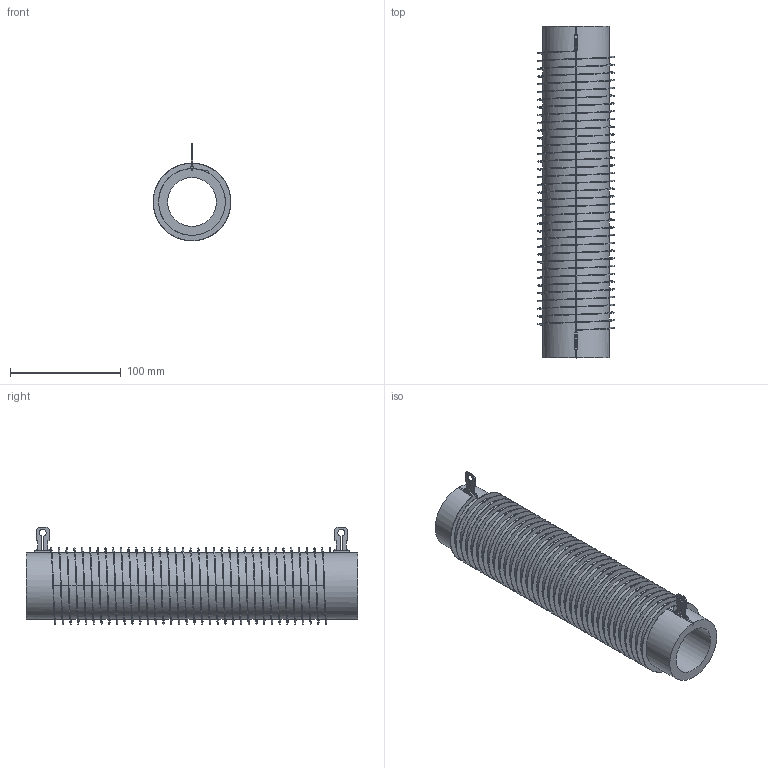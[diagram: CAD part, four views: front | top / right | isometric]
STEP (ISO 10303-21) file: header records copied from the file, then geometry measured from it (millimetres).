
FILE_DESCRIPTION(/* description */ (''),/* implementation_level */ '2;1');
FILE_NAME(/* name */ 'C:\_Vault\Dati\CATALOGO\RCPO-RSPO\RCPO-RSPO 500-1500\CPO0750.stp',/* time_stamp */ '2014-01-22T17:00:26+01:00',/* author */ ('stefano'),/* organization */ (''),/* preprocessor_version */ 'ST-DEVELOPER v15.2',/* originating_system */ 'Autodesk Inventor 2014',/* authorisation */ '');
FILE_SCHEMA (('AUTOMOTIVE_DESIGN { 1 0 10303 214 3 1 1 }'));
Length unit declared in the file: millimetre
Products named in the file (1): CPO0750
Bounding box: 70.01 x 300 x 88 mm (x, y, z)
Volume: 431666 mm3; surface area: 176171 mm2
Topology: 1 solids, 1 shells, 111 faces, 321 edges, 213 vertices
Faces by surface type: plane 66, cylinder 43, bspline 2
Full cylindrical faces by diameter (mm): 44 x1, 60.3 x36
Entity records: 8962 total; most frequent: CARTESIAN_POINT 6813, ORIENTED_EDGE 424, DIRECTION 393, EDGE_CURVE 211, LINE 171, VECTOR 171, VERTEX_POINT 141, AXIS2_PLACEMENT_3D 111
